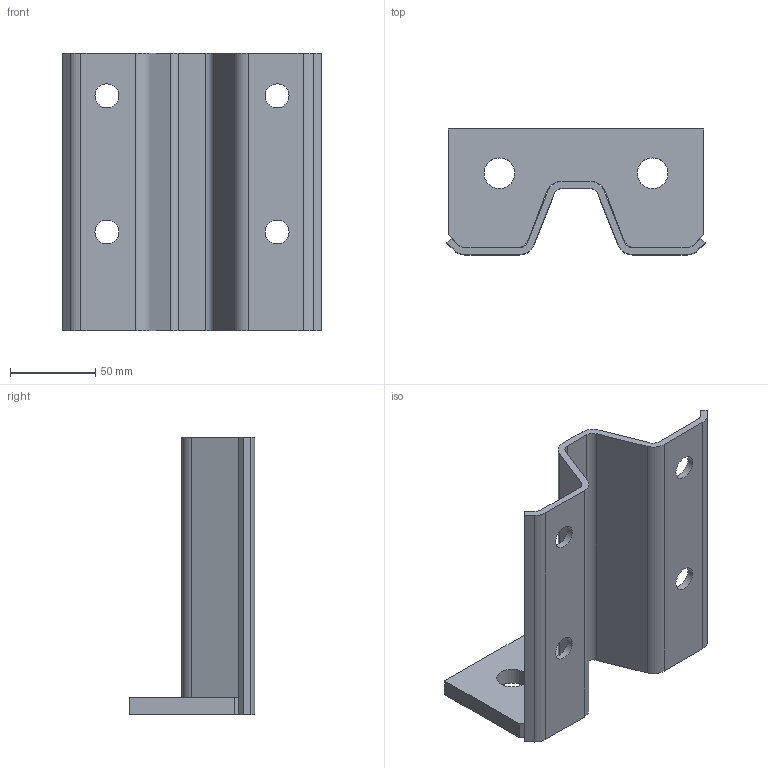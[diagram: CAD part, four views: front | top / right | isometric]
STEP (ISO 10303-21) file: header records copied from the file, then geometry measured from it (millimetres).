
FILE_DESCRIPTION(/* description */ (''),/* implementation_level */ '2;1');
FILE_NAME(/* name */ 'ZB185W90.stp',/* time_stamp */ '2023-07-03T11:23:15+02:00',/* author */ ('woriedl'),/* organization */ (''),/* preprocessor_version */ 'ST-DEVELOPER v19.2',/* originating_system */ 'AutoCAD Mechanical',/* authorisation */ '');
FILE_SCHEMA (('AUTOMOTIVE_DESIGN { 1 0 10303 214 3 1 1 }'));
Length unit declared in the file: centimetre
Products named in the file (1): Product
Bounding box: 151.72 x 74 x 163 mm (x, y, z)
Volume: 210819.4 mm3; surface area: 90435.8 mm2
Topology: 2 solids, 2 shells, 54 faces, 150 edges, 100 vertices
Faces by surface type: plane 30, cylinder 24
Full cylindrical faces by diameter (mm): 14 x4, 18 x2
Entity records: 1788 total; most frequent: DIRECTION 308, CARTESIAN_POINT 305, ORIENTED_EDGE 300, EDGE_CURVE 150, AXIS2_PLACEMENT_3D 103, LINE 102, VECTOR 102, VERTEX_POINT 100
